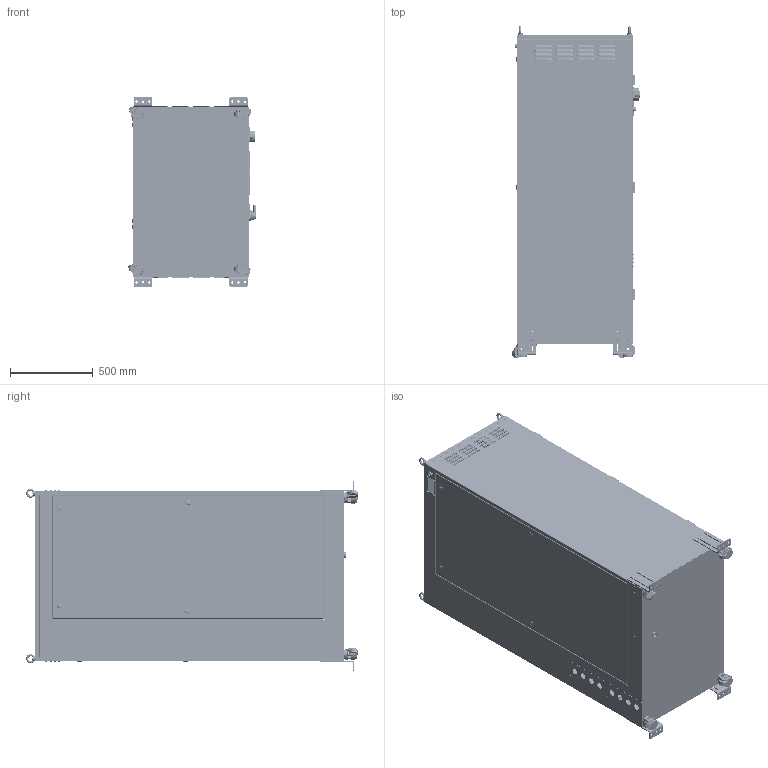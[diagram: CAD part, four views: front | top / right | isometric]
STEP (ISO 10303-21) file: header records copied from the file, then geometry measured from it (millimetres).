
FILE_DESCRIPTION (( 'STEP AP214' ), '1' );
FILE_NAME ('BR065 With Exterior Components.STEP', '2024-10-01T18:10:38', ( '' ), ( '' ), 'SwSTEP 2.0', 'SolidWorks 2023', '' );
FILE_SCHEMA (( 'AUTOMOTIVE_DESIGN' ));
Length unit declared in the file: inch
Products named in the file (32): BR069 Smaller Dimensions; 98003025; BR070 Smaller Dimensions_Back; 98003651; 94036A845_CLASS 8.8 M12-1.75 x 45mm Hex Flange Bolt_94036A845; 98003427; BN049-M (Smaller V3)_Left Side 1_2 Flange Nut; McMASTER-CARR #95610A620; BR066-C Smaller Dimensions_Front; 98003673; BN049-M (Smaller V3)_Right Side 1_2 Flange Nut; BR066-G; McMASTER-CARR #3112T14; BR066-A Smaller Dimensions_LEFT; 98003401_REV NC; 98004458; BR066-A Smaller Dimensions_Right; BR068 Smaller Dimensions_Back; BR065 With Exterior Components; 98004383; Vertical Return_Outlet Plate; BR066-C Smaller Dimensions_Rear; Door Hinge Left Side; BN049-K; 98004376; BR066-D Smaller Dimensions; V3 Facilities Plate Smaller Cabinet; BR067 Smaller Dimensions; BR066-B Smaller Dimensions; BR066-E Smaller Dimensions; BR021_2 Slots; Southco-E5-2-005-141_drive stud(005)
Assembly tree (64 placements, depth 2):
  BR065 With Exterior Components
    BR066-A Smaller Dimensions_LEFT
    BR066-B Smaller Dimensions
    BR066-A Smaller Dimensions_Right
    BR069 Smaller Dimensions
    BR066-C Smaller Dimensions_Rear
    BR066-C Smaller Dimensions_Front
    BR066-E Smaller Dimensions
    BR066-D Smaller Dimensions
    BR066-G  x2
    BN049-M (Smaller V3)_Right Side 1_2 Flange Nut  x2
    BN049-M (Smaller V3)_Left Side 1_2 Flange Nut  x2
    BR070 Smaller Dimensions_Back
    BR068 Smaller Dimensions_Back
    BR067 Smaller Dimensions
    94036A845_CLASS 8.8 M12-1.75 x 45mm Hex Flange Bolt_94036A845  x4
    BN049-K  x3
    Vertical Return_Outlet Plate  x2
    V3 Facilities Plate Smaller Cabinet
    McMASTER-CARR #95610A620  x4
    McMASTER-CARR #3112T14  x4
    98004458
    98004383
    Door Hinge Left Side  x3
    Southco-E5-2-005-141_drive stud(005)  x11
    98003427
    98003401_REV NC
    98003025
    98004376
    98003673
    98003651  x4
    BR021_2 Slots  x4
Bounding box: 776.37 x 2004 x 1143.12 mm (x, y, z)
Volume: 20673235.9 mm3; surface area: 24339167.7 mm2
Topology: 190 solids, 219 shells, 11988 faces, 30320 edges, 19058 vertices
Faces by surface type: plane 6034, cylinder 3561, cone 1028, bspline 741, torus 417, sphere 207
Entity records: 357872 total; most frequent: CARTESIAN_POINT 122761, ORIENTED_EDGE 50168, DIRECTION 44903, EDGE_CURVE 25084, VERTEX_POINT 15833, LINE 15021, VECTOR 15021, AXIS2_PLACEMENT_3D 14941
